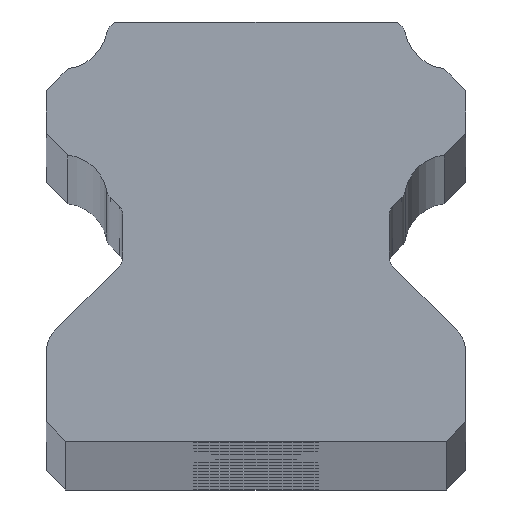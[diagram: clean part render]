
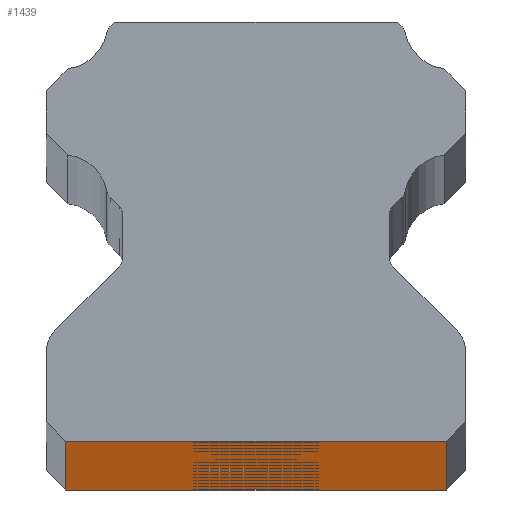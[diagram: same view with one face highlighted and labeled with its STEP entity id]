
A CAD part, top view. The second image highlights one B-rep face of the part: STEP entity #1439.
In plain terms, the highlighted planar face has unit normal (0, -1, 0).
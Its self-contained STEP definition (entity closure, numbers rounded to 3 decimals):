
#63=FACE_BOUND('',#203,.T.);
#64=FACE_BOUND('',#204,.T.);
#65=FACE_BOUND('',#205,.T.);
#66=FACE_BOUND('',#206,.T.);
#67=FACE_BOUND('',#207,.T.);
#68=FACE_BOUND('',#208,.T.);
#69=FACE_BOUND('',#209,.T.);
#70=FACE_BOUND('',#210,.T.);
#71=FACE_BOUND('',#211,.T.);
#72=FACE_BOUND('',#212,.T.);
#73=FACE_BOUND('',#213,.T.);
#74=FACE_BOUND('',#214,.T.);
#75=FACE_BOUND('',#215,.T.);
#76=FACE_BOUND('',#216,.T.);
#77=FACE_BOUND('',#217,.T.);
#78=FACE_BOUND('',#218,.T.);
#79=FACE_BOUND('',#219,.T.);
#115=FACE_OUTER_BOUND('',#202,.T.);
#202=EDGE_LOOP('',(#1025,#1026,#1027,#1028));
#203=EDGE_LOOP('',(#1029));
#204=EDGE_LOOP('',(#1030));
#205=EDGE_LOOP('',(#1031));
#206=EDGE_LOOP('',(#1032));
#207=EDGE_LOOP('',(#1033));
#208=EDGE_LOOP('',(#1034));
#209=EDGE_LOOP('',(#1035));
#210=EDGE_LOOP('',(#1036));
#211=EDGE_LOOP('',(#1037));
#212=EDGE_LOOP('',(#1038));
#213=EDGE_LOOP('',(#1039));
#214=EDGE_LOOP('',(#1040));
#215=EDGE_LOOP('',(#1041));
#216=EDGE_LOOP('',(#1042));
#217=EDGE_LOOP('',(#1043));
#218=EDGE_LOOP('',(#1044));
#219=EDGE_LOOP('',(#1045));
#353=CIRCLE('',#1564,2.25);
#354=CIRCLE('',#1565,2.25);
#355=CIRCLE('',#1566,2.25);
#356=CIRCLE('',#1567,2.25);
#357=CIRCLE('',#1568,2.25);
#358=CIRCLE('',#1569,2.25);
#359=CIRCLE('',#1570,2.25);
#360=CIRCLE('',#1571,2.25);
#361=CIRCLE('',#1572,2.25);
#362=CIRCLE('',#1573,2.25);
#363=CIRCLE('',#1574,2.25);
#364=CIRCLE('',#1575,2.25);
#365=CIRCLE('',#1576,2.25);
#366=CIRCLE('',#1577,2.25);
#367=CIRCLE('',#1578,2.25);
#368=CIRCLE('',#1579,2.25);
#369=CIRCLE('',#1580,2.25);
#435=LINE('',#2211,#543);
#455=LINE('',#2280,#563);
#456=LINE('',#2281,#564);
#457=LINE('',#2282,#565);
#543=VECTOR('',#1735,13.6);
#563=VECTOR('',#1785,10.);
#564=VECTOR('',#1786,10.);
#565=VECTOR('',#1787,59.9);
#651=VERTEX_POINT('',#2209);
#652=VERTEX_POINT('',#2210);
#685=VERTEX_POINT('',#2278);
#686=VERTEX_POINT('',#2279);
#687=VERTEX_POINT('',#2283);
#688=VERTEX_POINT('',#2285);
#689=VERTEX_POINT('',#2287);
#690=VERTEX_POINT('',#2289);
#691=VERTEX_POINT('',#2291);
#692=VERTEX_POINT('',#2293);
#693=VERTEX_POINT('',#2295);
#694=VERTEX_POINT('',#2297);
#695=VERTEX_POINT('',#2299);
#696=VERTEX_POINT('',#2301);
#697=VERTEX_POINT('',#2303);
#698=VERTEX_POINT('',#2305);
#699=VERTEX_POINT('',#2307);
#700=VERTEX_POINT('',#2309);
#701=VERTEX_POINT('',#2311);
#702=VERTEX_POINT('',#2313);
#703=VERTEX_POINT('',#2315);
#787=EDGE_CURVE('',#651,#652,#435,.T.);
#821=EDGE_CURVE('',#685,#686,#455,.T.);
#822=EDGE_CURVE('',#651,#685,#456,.T.);
#823=EDGE_CURVE('',#686,#652,#457,.T.);
#824=EDGE_CURVE('',#687,#687,#353,.T.);
#825=EDGE_CURVE('',#688,#688,#354,.T.);
#826=EDGE_CURVE('',#689,#689,#355,.T.);
#827=EDGE_CURVE('',#690,#690,#356,.T.);
#828=EDGE_CURVE('',#691,#691,#357,.T.);
#829=EDGE_CURVE('',#692,#692,#358,.T.);
#830=EDGE_CURVE('',#693,#693,#359,.T.);
#831=EDGE_CURVE('',#694,#694,#360,.T.);
#832=EDGE_CURVE('',#695,#695,#361,.T.);
#833=EDGE_CURVE('',#696,#696,#362,.T.);
#834=EDGE_CURVE('',#697,#697,#363,.T.);
#835=EDGE_CURVE('',#698,#698,#364,.T.);
#836=EDGE_CURVE('',#699,#699,#365,.T.);
#837=EDGE_CURVE('',#700,#700,#366,.T.);
#838=EDGE_CURVE('',#701,#701,#367,.T.);
#839=EDGE_CURVE('',#702,#702,#368,.T.);
#840=EDGE_CURVE('',#703,#703,#369,.T.);
#1025=ORIENTED_EDGE('',*,*,#821,.F.);
#1026=ORIENTED_EDGE('',*,*,#822,.F.);
#1027=ORIENTED_EDGE('',*,*,#787,.T.);
#1028=ORIENTED_EDGE('',*,*,#823,.F.);
#1029=ORIENTED_EDGE('',*,*,#824,.T.);
#1030=ORIENTED_EDGE('',*,*,#825,.T.);
#1031=ORIENTED_EDGE('',*,*,#826,.T.);
#1032=ORIENTED_EDGE('',*,*,#827,.T.);
#1033=ORIENTED_EDGE('',*,*,#828,.T.);
#1034=ORIENTED_EDGE('',*,*,#829,.T.);
#1035=ORIENTED_EDGE('',*,*,#830,.T.);
#1036=ORIENTED_EDGE('',*,*,#831,.T.);
#1037=ORIENTED_EDGE('',*,*,#832,.T.);
#1038=ORIENTED_EDGE('',*,*,#833,.T.);
#1039=ORIENTED_EDGE('',*,*,#834,.T.);
#1040=ORIENTED_EDGE('',*,*,#835,.T.);
#1041=ORIENTED_EDGE('',*,*,#836,.T.);
#1042=ORIENTED_EDGE('',*,*,#837,.T.);
#1043=ORIENTED_EDGE('',*,*,#838,.T.);
#1044=ORIENTED_EDGE('',*,*,#839,.T.);
#1045=ORIENTED_EDGE('',*,*,#840,.T.);
#1400=PLANE('',#1563);
#1439=ADVANCED_FACE('',(#115,#63,#64,#65,#66,#67,#68,#69,#70,#71,#72,#73,
#74,#75,#76,#77,#78,#79),#1400,.T.);
#1563=AXIS2_PLACEMENT_3D('',#2277,#1783,#1784);
#1564=AXIS2_PLACEMENT_3D('',#2284,#1788,#1789);
#1565=AXIS2_PLACEMENT_3D('',#2286,#1790,#1791);
#1566=AXIS2_PLACEMENT_3D('',#2288,#1792,#1793);
#1567=AXIS2_PLACEMENT_3D('',#2290,#1794,#1795);
#1568=AXIS2_PLACEMENT_3D('',#2292,#1796,#1797);
#1569=AXIS2_PLACEMENT_3D('',#2294,#1798,#1799);
#1570=AXIS2_PLACEMENT_3D('',#2296,#1800,#1801);
#1571=AXIS2_PLACEMENT_3D('',#2298,#1802,#1803);
#1572=AXIS2_PLACEMENT_3D('',#2300,#1804,#1805);
#1573=AXIS2_PLACEMENT_3D('',#2302,#1806,#1807);
#1574=AXIS2_PLACEMENT_3D('',#2304,#1808,#1809);
#1575=AXIS2_PLACEMENT_3D('',#2306,#1810,#1811);
#1576=AXIS2_PLACEMENT_3D('',#2308,#1812,#1813);
#1577=AXIS2_PLACEMENT_3D('',#2310,#1814,#1815);
#1578=AXIS2_PLACEMENT_3D('',#2312,#1816,#1817);
#1579=AXIS2_PLACEMENT_3D('',#2314,#1818,#1819);
#1580=AXIS2_PLACEMENT_3D('',#2316,#1820,#1821);
#1735=DIRECTION('',(-1.,0.,0.));
#1783=DIRECTION('center_axis',(0.,-1.,0.));
#1784=DIRECTION('ref_axis',(1.,0.,0.));
#1785=DIRECTION('',(-1.,0.,0.));
#1786=DIRECTION('',(0.,0.,-1.));
#1787=DIRECTION('',(0.,0.,1.));
#1788=DIRECTION('center_axis',(0.,1.,0.));
#1789=DIRECTION('ref_axis',(1.,0.,0.));
#1790=DIRECTION('center_axis',(0.,1.,0.));
#1791=DIRECTION('ref_axis',(1.,0.,0.));
#1792=DIRECTION('center_axis',(0.,1.,0.));
#1793=DIRECTION('ref_axis',(1.,0.,0.));
#1794=DIRECTION('center_axis',(0.,1.,0.));
#1795=DIRECTION('ref_axis',(1.,0.,0.));
#1796=DIRECTION('center_axis',(0.,1.,0.));
#1797=DIRECTION('ref_axis',(1.,0.,0.));
#1798=DIRECTION('center_axis',(0.,1.,0.));
#1799=DIRECTION('ref_axis',(1.,0.,0.));
#1800=DIRECTION('center_axis',(0.,1.,0.));
#1801=DIRECTION('ref_axis',(1.,0.,0.));
#1802=DIRECTION('center_axis',(0.,1.,0.));
#1803=DIRECTION('ref_axis',(1.,0.,0.));
#1804=DIRECTION('center_axis',(0.,1.,0.));
#1805=DIRECTION('ref_axis',(1.,0.,0.));
#1806=DIRECTION('center_axis',(0.,1.,0.));
#1807=DIRECTION('ref_axis',(1.,0.,0.));
#1808=DIRECTION('center_axis',(0.,1.,0.));
#1809=DIRECTION('ref_axis',(1.,0.,0.));
#1810=DIRECTION('center_axis',(0.,1.,0.));
#1811=DIRECTION('ref_axis',(1.,0.,0.));
#1812=DIRECTION('center_axis',(0.,1.,0.));
#1813=DIRECTION('ref_axis',(1.,0.,0.));
#1814=DIRECTION('center_axis',(0.,1.,0.));
#1815=DIRECTION('ref_axis',(1.,0.,0.));
#1816=DIRECTION('center_axis',(0.,1.,0.));
#1817=DIRECTION('ref_axis',(1.,0.,0.));
#1818=DIRECTION('center_axis',(0.,1.,0.));
#1819=DIRECTION('ref_axis',(1.,0.,0.));
#1820=DIRECTION('center_axis',(0.,1.,0.));
#1821=DIRECTION('ref_axis',(1.,0.,0.));
#2209=CARTESIAN_POINT('',(6.8,0.,59.9));
#2210=CARTESIAN_POINT('',(-6.8,0.,59.9));
#2211=CARTESIAN_POINT('',(0.,0.,59.9));
#2277=CARTESIAN_POINT('Origin',(0.,0.,0.));
#2278=CARTESIAN_POINT('',(6.8,0.,-939.1));
#2279=CARTESIAN_POINT('',(-6.8,0.,-939.1));
#2280=CARTESIAN_POINT('',(6.8,0.,-939.1));
#2281=CARTESIAN_POINT('',(6.8,0.,0.));
#2282=CARTESIAN_POINT('',(-6.8,0.,0.));
#2283=CARTESIAN_POINT('',(-2.25,0.,40.4));
#2284=CARTESIAN_POINT('Origin',(0.,0.,40.4));
#2285=CARTESIAN_POINT('',(-2.25,0.,-19.6));
#2286=CARTESIAN_POINT('Origin',(0.,0.,-19.6));
#2287=CARTESIAN_POINT('',(-2.25,0.,-79.6));
#2288=CARTESIAN_POINT('Origin',(0.,0.,-79.6));
#2289=CARTESIAN_POINT('',(-2.25,0.,-139.6));
#2290=CARTESIAN_POINT('Origin',(0.,0.,-139.6));
#2291=CARTESIAN_POINT('',(-2.25,0.,-199.6));
#2292=CARTESIAN_POINT('Origin',(0.,0.,-199.6));
#2293=CARTESIAN_POINT('',(-2.25,0.,-259.6));
#2294=CARTESIAN_POINT('Origin',(0.,0.,-259.6));
#2295=CARTESIAN_POINT('',(-2.25,0.,-319.6));
#2296=CARTESIAN_POINT('Origin',(0.,0.,-319.6));
#2297=CARTESIAN_POINT('',(-2.25,0.,-379.6));
#2298=CARTESIAN_POINT('Origin',(0.,0.,-379.6));
#2299=CARTESIAN_POINT('',(-2.25,0.,-919.6));
#2300=CARTESIAN_POINT('Origin',(0.,0.,-919.6));
#2301=CARTESIAN_POINT('',(-2.25,0.,-859.6));
#2302=CARTESIAN_POINT('Origin',(0.,0.,-859.6));
#2303=CARTESIAN_POINT('',(-2.25,0.,-799.6));
#2304=CARTESIAN_POINT('Origin',(0.,0.,-799.6));
#2305=CARTESIAN_POINT('',(-2.25,0.,-739.6));
#2306=CARTESIAN_POINT('Origin',(0.,0.,-739.6));
#2307=CARTESIAN_POINT('',(-2.25,0.,-679.6));
#2308=CARTESIAN_POINT('Origin',(0.,0.,-679.6));
#2309=CARTESIAN_POINT('',(-2.25,0.,-619.6));
#2310=CARTESIAN_POINT('Origin',(0.,0.,-619.6));
#2311=CARTESIAN_POINT('',(-2.25,0.,-559.6));
#2312=CARTESIAN_POINT('Origin',(0.,0.,-559.6));
#2313=CARTESIAN_POINT('',(-2.25,0.,-499.6));
#2314=CARTESIAN_POINT('Origin',(0.,0.,-499.6));
#2315=CARTESIAN_POINT('',(-2.25,0.,-439.6));
#2316=CARTESIAN_POINT('Origin',(0.,0.,-439.6));
